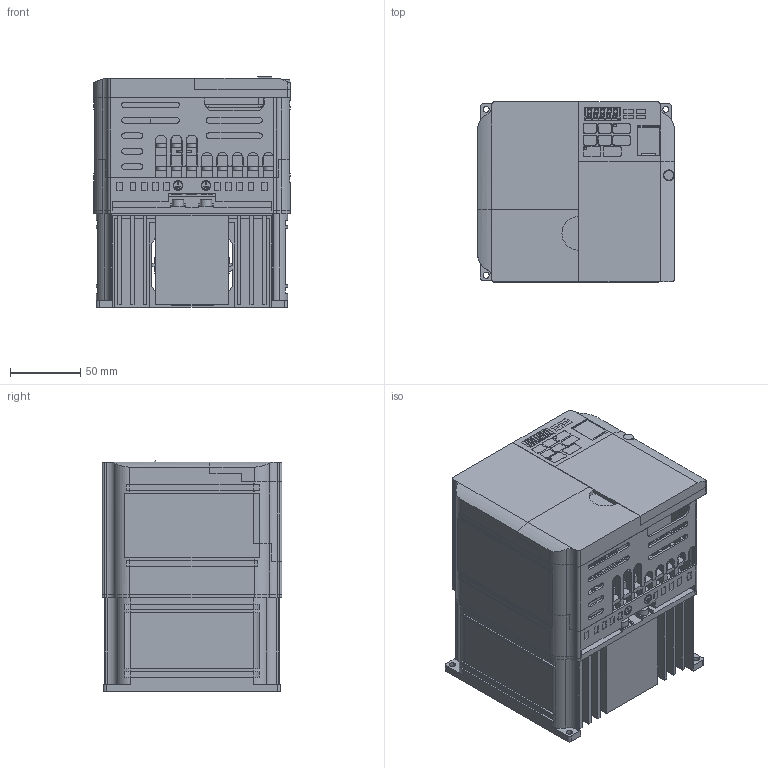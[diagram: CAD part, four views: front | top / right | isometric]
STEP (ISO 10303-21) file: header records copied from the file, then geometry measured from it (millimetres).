
FILE_DESCRIPTION((''),'2;1');
FILE_NAME('V1000_IP20_FRAME_K_ASM','2010-07-20T',('jc'),('YASKAWA ELECTRIC CORCORATION'),'PRO/ENGINEER BY PARAMETRIC TECHNOLOGY CORPORATION, 2008490','PRO/ENGINEER BY PARAMETRIC TECHNOLOGY CORPORATION, 2008490','');
FILE_SCHEMA(('CONFIG_CONTROL_DESIGN'));
Length unit declared in the file: millimetre
Products named in the file (25): NONE-63723; ASM0094_ASM; NONE-61086; ASM0095_ASM; NONE-71528; ASM0096_ASM; NONE-61523; ASM0097_ASM; NONE-71701; ASM0098_ASM; NONE-72571; BASE_CASE_C2________ANY_ASM; NONE-76228; ASM0099_ASM; NONE-29567; ASM0100_ASM; NONE-61498; ASM0101_ASM; NONE-49143; ASM0102_ASM; NONE-49291; SHITA_COVER_C2________ANY_ASM; CIMR_VZBA0012BAA_ANY_ASM; _BA0012B; V1000_IP20_FRAME_K_ASM
Assembly tree (24 placements, depth 4):
  V1000_IP20_FRAME_K_ASM
    CIMR_VZBA0012BAA_ANY_ASM
      ASM0094_ASM
        NONE-63723
      ASM0095_ASM
        NONE-61086
      ASM0096_ASM
        NONE-71528
      ASM0097_ASM
        NONE-61523
      ASM0098_ASM
        NONE-71701
      BASE_CASE_C2________ANY_ASM
        NONE-72571
      ASM0099_ASM
        NONE-76228
      ASM0100_ASM
        NONE-29567
      ASM0101_ASM
        NONE-61498
      ASM0102_ASM
        NONE-49143
      SHITA_COVER_C2________ANY_ASM
        NONE-49291
    _BA0012B
Bounding box: 140 x 128 x 164 mm (x, y, z)
Volume: 1891141.7 mm3; surface area: 386802.3 mm2
Topology: 11 solids, 11 shells, 2020 faces, 5490 edges, 3639 vertices
Faces by surface type: plane 1607, cylinder 413
Entity records: 63991 total; most frequent: CARTESIAN_POINT 11318, ORIENTED_EDGE 10980, DIRECTION 10591, EDGE_CURVE 5490, VECTOR 4545, LINE 4545, VERTEX_POINT 3639, AXIS2_PLACEMENT_3D 3023
